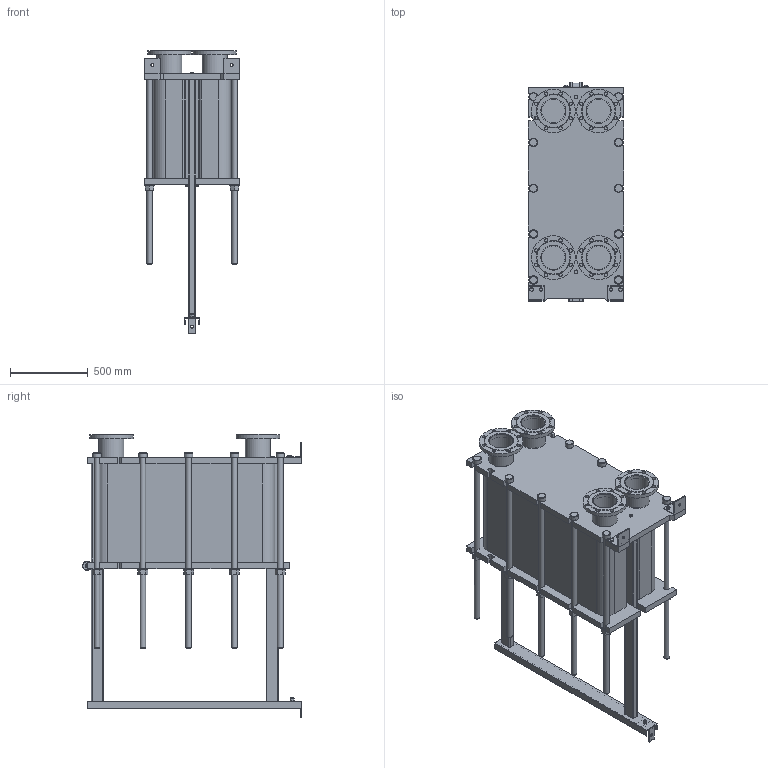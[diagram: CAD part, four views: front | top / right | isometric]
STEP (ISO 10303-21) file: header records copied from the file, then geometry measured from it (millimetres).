
FILE_DESCRIPTION(/* description */ (''),/* implementation_level */ '2;1');
FILE_NAME(/* name */ 'C:\Users\zhuro\Desktop\ENCO\TO\ЭН-041\ЭН-0,5-041-184-1.stp',/* time_stamp */ '2022-06-06T11:05:23+03:00',/* author */ ('zhuro'),/* organization */ (''),/* preprocessor_version */ 'ST-DEVELOPER v18.1',/* originating_system */ 'Autodesk Inventor 2022',/* authorisation */ '');
FILE_SCHEMA (('AUTOMOTIVE_DESIGN { 1 0 10303 214 3 1 1 }'));
Length unit declared in the file: millimetre
Products named in the file (1): ЭН-0,5-041-184-1
Bounding box: 610 x 1406.5 x 1820 mm (x, y, z)
Volume: 443411231.4 mm3; surface area: 10876642.2 mm2
Topology: 52 solids, 52 shells, 711 faces, 1696 edges, 1094 vertices
Faces by surface type: plane 487, cylinder 177, cone 41, torus 6
Full cylindrical faces by diameter (mm): 8 x4, 10 x2, 16 x8, 18 x3, 22 x32, 36 x24, 50 x1, 54 x10, 60 x12, 151 x4, 161 x8, 280 x4
Entity records: 22667 total; most frequent: CARTESIAN_POINT 5230, DIRECTION 3644, ORIENTED_EDGE 3392, EDGE_CURVE 1696, AXIS2_PLACEMENT_3D 1272, LINE 1100, VECTOR 1100, VERTEX_POINT 1094
